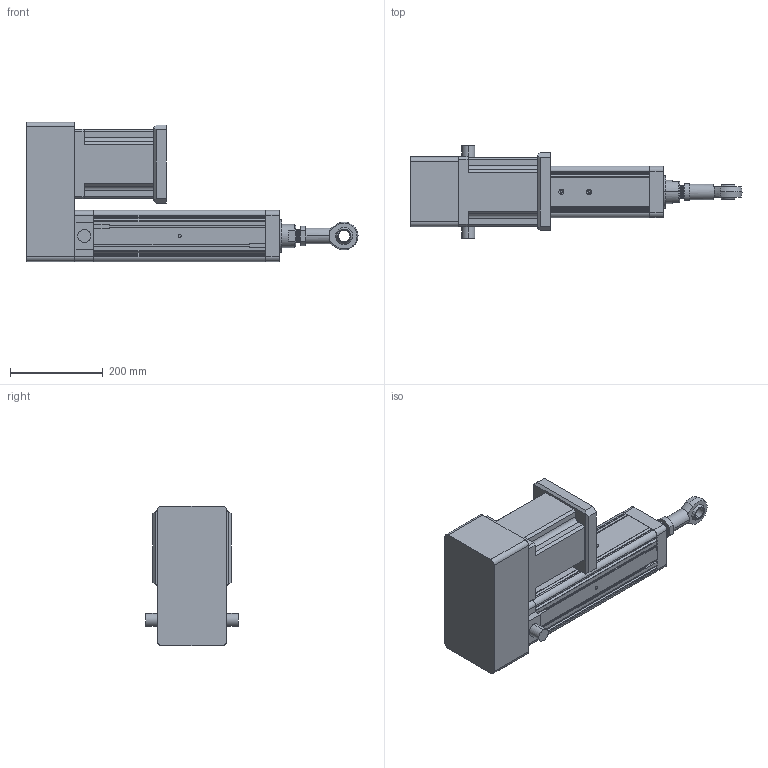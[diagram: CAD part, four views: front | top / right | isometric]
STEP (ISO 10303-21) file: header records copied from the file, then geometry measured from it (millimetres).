
FILE_DESCRIPTION (( 'STEP AP203' ), '1' );
FILE_NAME ('YRJ110-L200-H4K3.STEP', '2020-01-06T01:21:30', ( 'User' ), ( 'China' ), 'SwSTEP 2.0', 'SolidWorks 2016', '' );
FILE_SCHEMA (( 'CONFIG_CONTROL_DESIGN' ));
Length unit declared in the file: millimetre
Products named in the file (11): _BNC01-SI25T_K-R-001; _BNC01-SI25T_K-R-002; BNC01-SI25T_K-R; 095-100俴最倰第; K3-110; 142熬厒儂; YRJ110-L200-H4K3; H5-110-1; H5-110-2; 萇儂碟-110; K1-110
Assembly tree (10 placements, depth 4):
  YRJ110-L200-H4K3
    095-100俴最倰第
    142熬厒儂
    H5-110-1
    H5-110-2
    萇儂碟-110
    K3-110
      K1-110
      BNC01-SI25T_K-R
        _BNC01-SI25T_K-R-001
        _BNC01-SI25T_K-R-002
Bounding box: 715 x 200 x 300.5 mm (x, y, z)
Volume: 11483881.1 mm3; surface area: 848505.9 mm2
Topology: 8 solids, 8 shells, 401 faces, 1101 edges, 709 vertices
Faces by surface type: plane 187, cylinder 166, cone 34, bspline 14
Entity records: 22833 total; most frequent: CARTESIAN_POINT 11715, ORIENTED_EDGE 2146, DIRECTION 2000, EDGE_CURVE 1073, VERTEX_POINT 709, AXIS2_PLACEMENT_3D 674, VECTOR 652, LINE 652
